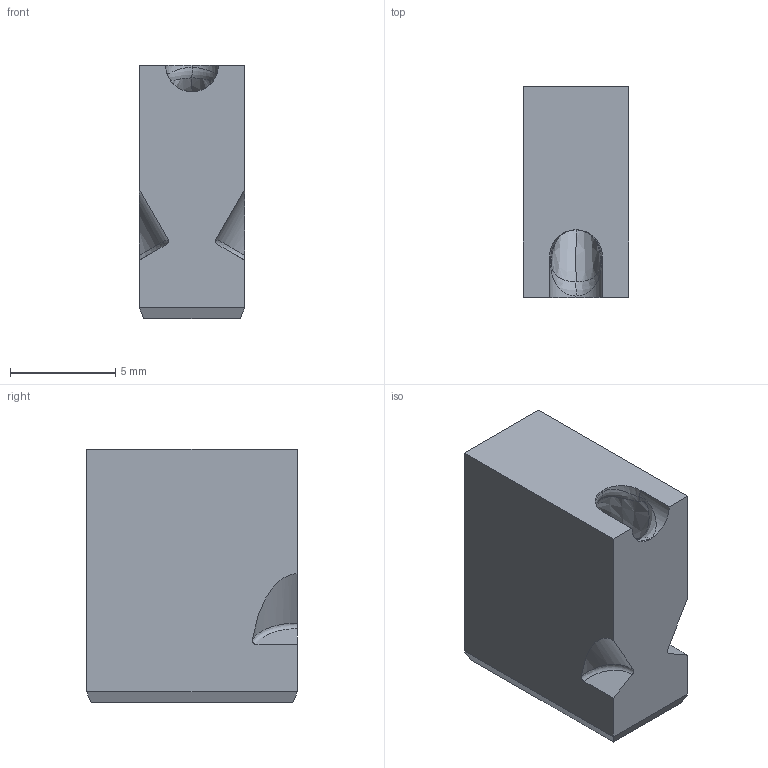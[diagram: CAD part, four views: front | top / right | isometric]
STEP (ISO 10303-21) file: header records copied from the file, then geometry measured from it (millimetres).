
FILE_DESCRIPTION((''),'2;1');
FILE_NAME('TGC-XS','2007-11-26T',('tmeister'),(''),'PRO/ENGINEER BY PARAMETRIC TECHNOLOGY CORPORATION, 2002390','PRO/ENGINEER BY PARAMETRIC TECHNOLOGY CORPORATION, 2002390','');
FILE_SCHEMA(('CONFIG_CONTROL_DESIGN'));
Length unit declared in the file: millimetre
Products named in the file (1): TGC-XS
Bounding box: 5 x 10 x 12 mm (x, y, z)
Volume: 509.6 mm3; surface area: 637.3 mm2
Topology: 1 solids, 3 shells, 50 faces, 144 edges, 100 vertices
Faces by surface type: plane 13, bspline 12, cylinder 9, sphere 6, cone 4, torus 4, revolution 2
Entity records: 2882 total; most frequent: CARTESIAN_POINT 1672, ORIENTED_EDGE 226, DIRECTION 220, EDGE_CURVE 116, AXIS2_PLACEMENT_3D 79, VERTEX_POINT 71, VECTOR 60, LINE 60
